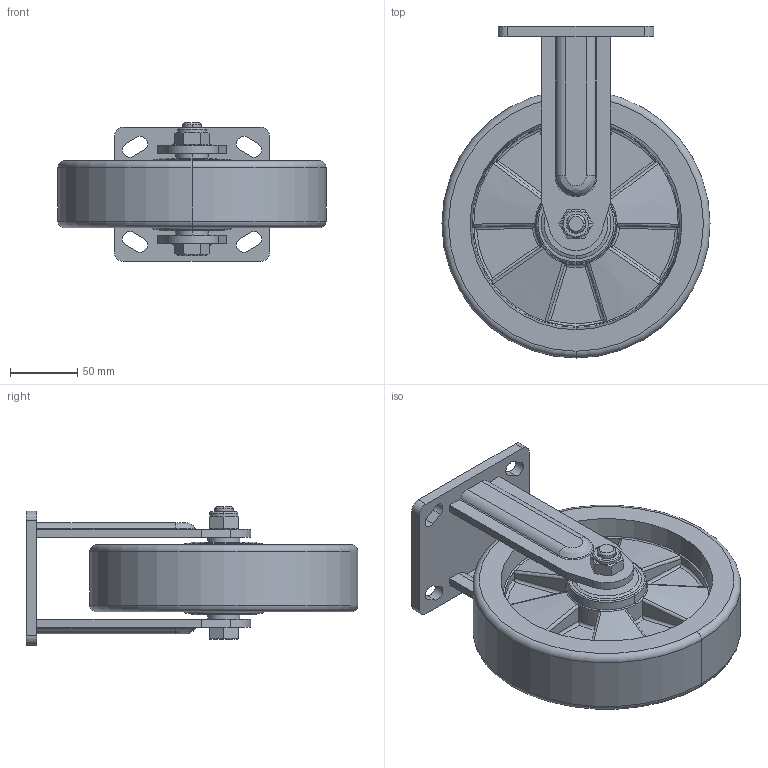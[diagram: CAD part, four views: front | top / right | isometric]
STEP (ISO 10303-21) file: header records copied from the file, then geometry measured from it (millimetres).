
FILE_DESCRIPTION((''),'2;1');
FILE_NAME('78108-788-86T_ASM','2020-07-09T',('lenovo'),(''),'PRO/ENGINEER BY PARAMETRIC TECHNOLOGY CORPORATION, 2010280','PRO/ENGINEER BY PARAMETRIC TECHNOLOGY CORPORATION, 2010280','');
FILE_SCHEMA(('CONFIG_CONTROL_DESIGN'));
Length unit declared in the file: millimetre
Products named in the file (7): 780C00; 788C10; 788-10_ASM; 788-86A; 780F-33-; 780-34; 78108-788-86T_ASM
Assembly tree (6 placements, depth 3):
  78108-788-86T_ASM
    788-10_ASM
      780C00
      788C10
    788-86A
    780F-33-
    780-34
Bounding box: 200 x 247.5 x 103.5 mm (x, y, z)
Volume: 1210714.4 mm3; surface area: 198243.4 mm2
Topology: 6 solids, 6 shells, 296 faces, 719 edges, 442 vertices
Faces by surface type: cylinder 98, plane 87, torus 46, cone 34, bspline 31
Entity records: 12217 total; most frequent: CARTESIAN_POINT 5257, ORIENTED_EDGE 1438, DIRECTION 1410, EDGE_CURVE 719, AXIS2_PLACEMENT_3D 552, VERTEX_POINT 442, EDGE_LOOP 319, VECTOR 306
